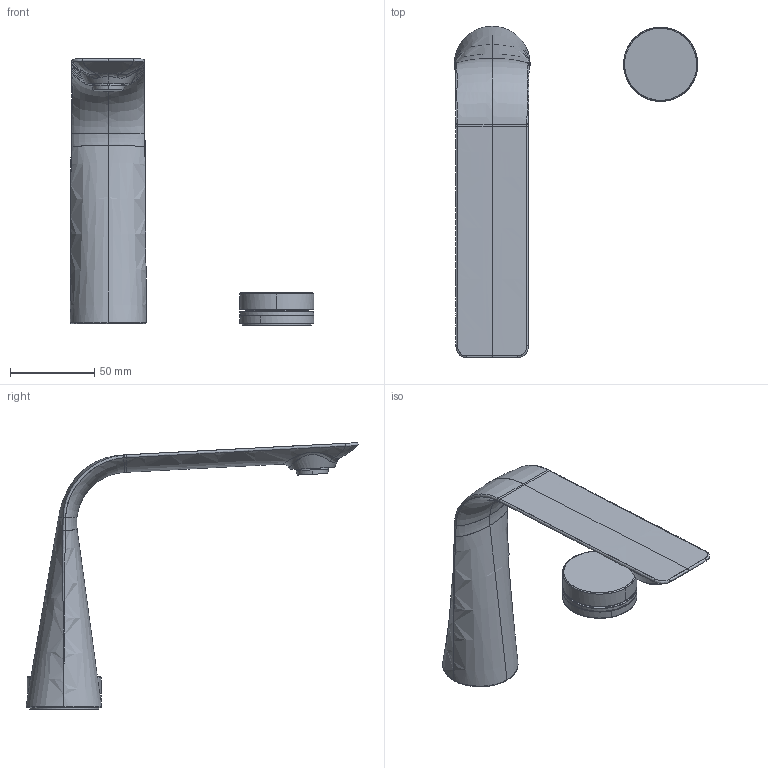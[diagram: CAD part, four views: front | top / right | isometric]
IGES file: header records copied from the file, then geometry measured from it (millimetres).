
Global section: file name: d:\users\matthias.isele\Desktop\planungsdaten_erstellen\D11100007010.igs; native system: Rhinoceros ( Sep 13 2016 ); preprocessor: Trout Lake IGES 012 Sep 13 2016; date: 190902.110503; units: millimetre
Bounding box: 144.5 x 197.03 x 158.23 mm (x, y, z)
Surface area: 46778.5 mm2 (no closed solid volume)
Topology: 0 solids, 0 shells, 441 faces, 2498 edges, 2496 vertices
Faces by surface type: bspline 441
